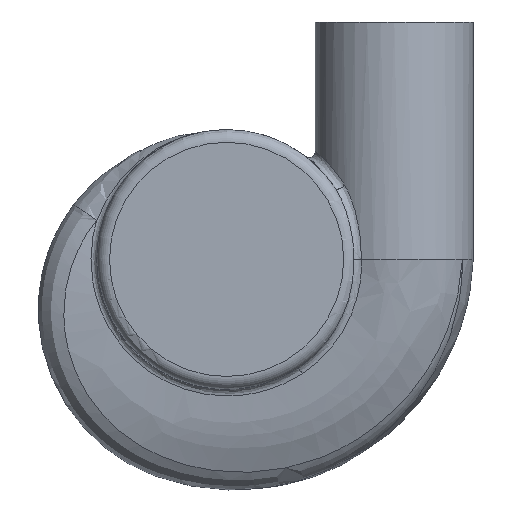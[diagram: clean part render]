
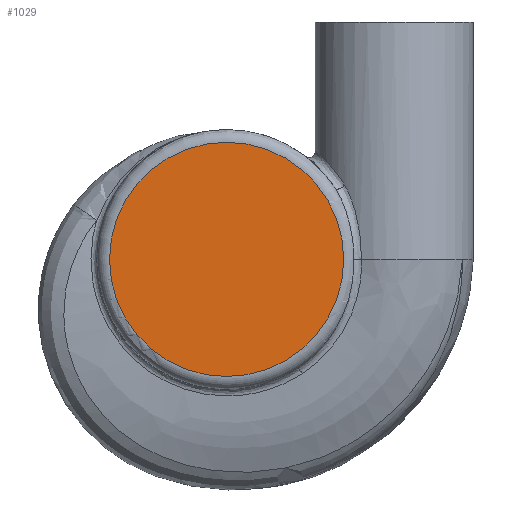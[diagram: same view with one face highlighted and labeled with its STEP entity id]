
A CAD part, top view. The second image highlights one B-rep face of the part: STEP entity #1029.
In plain terms, the highlighted planar face has unit normal (0, 0, 1).
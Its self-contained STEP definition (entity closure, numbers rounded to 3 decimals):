
#22=PLANE('',#1096);
#245=FACE_OUTER_BOUND('',#291,.T.);
#291=EDGE_LOOP('',(#959));
#323=CIRCLE('',#1086,37.);
#458=VERTEX_POINT('',#7394);
#623=EDGE_CURVE('',#458,#458,#323,.T.);
#959=ORIENTED_EDGE('',*,*,#623,.F.);
#1029=ADVANCED_FACE('',(#245),#22,.T.);
#1086=AXIS2_PLACEMENT_3D('',#7395,#1184,#1185);
#1096=AXIS2_PLACEMENT_3D('',#7408,#1205,#1206);
#1184=DIRECTION('center_axis',(0.,0.,-1.));
#1185=DIRECTION('ref_axis',(1.,0.,0.));
#1205=DIRECTION('center_axis',(0.,0.,1.));
#1206=DIRECTION('ref_axis',(1.,0.,0.));
#7394=CARTESIAN_POINT('',(-37.,0.,110.));
#7395=CARTESIAN_POINT('Origin',(0.,0.,110.));
#7408=CARTESIAN_POINT('Origin',(0.,0.,110.));
